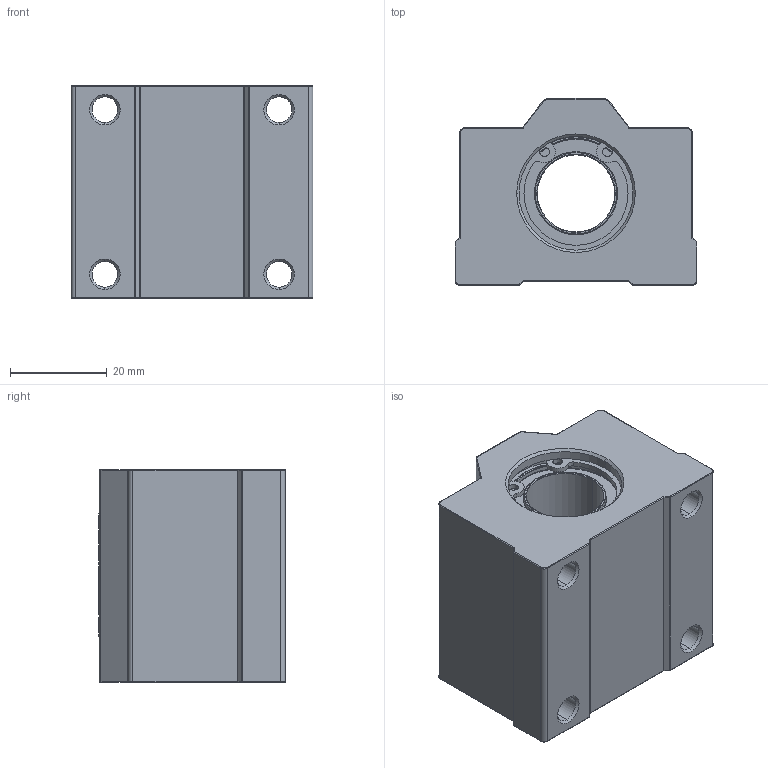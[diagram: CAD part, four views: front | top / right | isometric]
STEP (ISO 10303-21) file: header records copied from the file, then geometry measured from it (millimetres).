
FILE_DESCRIPTION (( 'STEP AP214' ), '1' );
FILE_NAME ('SC16UU.STEP', '2020-09-23T12:44:22', ( '' ), ( '' ), 'SwSTEP 2.0', 'SolidWorks 2018', '' );
FILE_SCHEMA (( 'AUTOMOTIVE_DESIGN' ));
Length unit declared in the file: millimetre
Products named in the file (4): SC16UU-03; SC16UU-02; SC16UU-01; SC16UU
Assembly tree (4 placements, depth 2):
  SC16UU
    SC16UU-01
    SC16UU-02
    SC16UU-03  x2
Bounding box: 50 x 38.6 x 44 mm (x, y, z)
Volume: 59591.3 mm3; surface area: 21668.7 mm2
Topology: 4 solids, 4 shells, 372 faces, 911 edges, 566 vertices
Faces by surface type: plane 150, cylinder 108, torus 48, bspline 38, cone 20, sphere 8
Entity records: 14264 total; most frequent: CARTESIAN_POINT 4094, ORIENTED_EDGE 1724, DIRECTION 1712, EDGE_CURVE 862, AXIS2_PLACEMENT_3D 602, VERTEX_POINT 536, LINE 508, VECTOR 508
